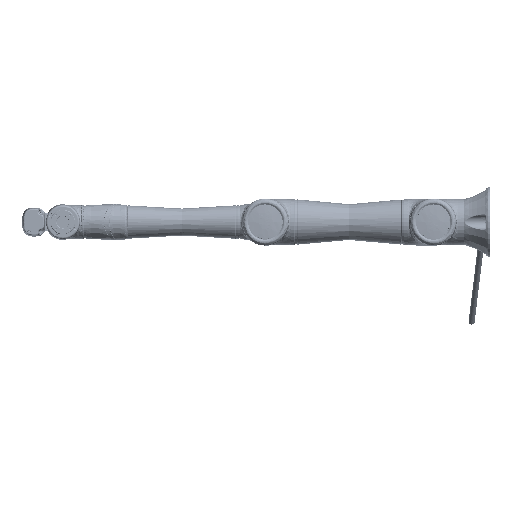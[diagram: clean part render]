
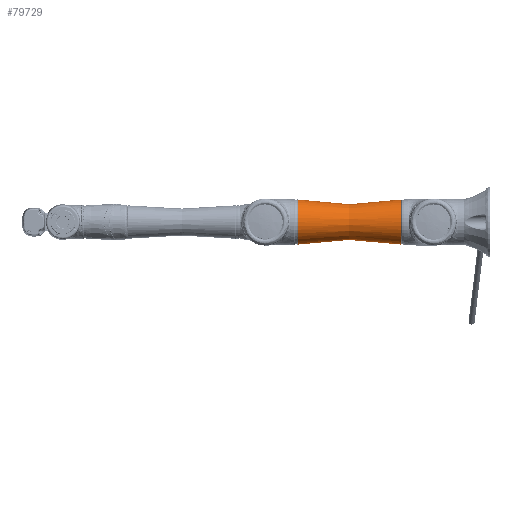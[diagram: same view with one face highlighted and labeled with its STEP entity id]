
A CAD part, left-side view. The second image highlights one B-rep face of the part: STEP entity #79729.
In plain terms, the highlighted face is a revolution surface.
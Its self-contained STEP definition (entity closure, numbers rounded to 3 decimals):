
#72521=CARTESIAN_POINT('',(0.,-132.456,0.));
#72522=DIRECTION('',(0.,1.,0.));
#72523=DIRECTION('',(-1.,0.,0.));
#72524=AXIS2_PLACEMENT_3D('',#72521,#72522,#72523);
#72526=CARTESIAN_POINT('',(0.,132.456,0.));
#72527=DIRECTION('',(0.,1.,0.));
#72528=DIRECTION('',(-1.,0.,0.));
#72529=AXIS2_PLACEMENT_3D('',#72526,#72527,#72528);
#72531=CARTESIAN_POINT('',(57.709,132.456,
0.));
#72532=CARTESIAN_POINT('',(57.279,127.536,
0.));
#72533=CARTESIAN_POINT('',(55.469,111.344,
0.));
#72534=CARTESIAN_POINT('',(51.162,80.727,
0.));
#72535=CARTESIAN_POINT('',(46.837,40.891,
0.));
#72536=CARTESIAN_POINT('',(45.196,0.,
0.));
#72537=CARTESIAN_POINT('',(46.837,-40.891,
0.));
#72538=CARTESIAN_POINT('',(51.162,-80.727,
0.));
#72539=CARTESIAN_POINT('',(55.469,-111.344,
0.));
#72540=CARTESIAN_POINT('',(57.279,-127.536,
0.));
#72541=CARTESIAN_POINT('',(57.709,-132.456,
0.));
#72543=CARTESIAN_POINT('',(-57.709,-132.456,
0.));
#72544=CARTESIAN_POINT('',(-57.279,-127.536,
0.));
#72545=CARTESIAN_POINT('',(-55.469,-111.344,
0.));
#72546=CARTESIAN_POINT('',(-51.162,-80.727,
0.));
#72547=CARTESIAN_POINT('',(-46.837,-40.891,
0.));
#72548=CARTESIAN_POINT('',(-45.196,0.,
0.));
#72549=CARTESIAN_POINT('',(-46.837,40.891,
0.));
#72550=CARTESIAN_POINT('',(-51.162,80.727,
0.));
#72551=CARTESIAN_POINT('',(-55.469,111.344,
0.));
#72552=CARTESIAN_POINT('',(-57.279,127.536,
0.));
#72553=CARTESIAN_POINT('',(-57.709,132.456,
0.));
#73612=CARTESIAN_POINT('',(-57.709,132.456,
0.));
#73613=CARTESIAN_POINT('',(57.709,132.456,
0.));
#73614=VERTEX_POINT('',#73612);
#73615=VERTEX_POINT('',#73613);
#73616=VERTEX_POINT('',#72543);
#73617=CARTESIAN_POINT('',(57.709,-132.456,
0.));
#73618=VERTEX_POINT('',#73617);
#79702=CARTESIAN_POINT('',(-57.928,135.109,0.));
#79703=CARTESIAN_POINT('',(-57.86,134.235,0.));
#79704=CARTESIAN_POINT('',(-57.385,128.485,0.));
#79705=CARTESIAN_POINT('',(-55.469,111.344,0.));
#79706=CARTESIAN_POINT('',(-51.162,80.727,0.));
#79707=CARTESIAN_POINT('',(-46.837,40.891,0.));
#79708=CARTESIAN_POINT('',(-45.196,0.,0.));
#79709=CARTESIAN_POINT('',(-46.837,-40.891,0.));
#79710=CARTESIAN_POINT('',(-51.162,-80.727,0.));
#79711=CARTESIAN_POINT('',(-55.469,-111.344,0.));
#79712=CARTESIAN_POINT('',(-57.383,-128.464,0.));
#79713=CARTESIAN_POINT('',(-57.857,-134.195,0.));
#79714=CARTESIAN_POINT('',(-57.923,-135.05,0.));
#79716=CARTESIAN_POINT('',(0.,150.462,0.));
#79717=DIRECTION('',(0.,-1.,0.));
#79718=AXIS1_PLACEMENT('',#79716,#79717);
#79719=SURFACE_OF_REVOLUTION('',#79715,#79718);
#79721=ORIENTED_EDGE('',*,*,#79720,.T.);
#79723=ORIENTED_EDGE('',*,*,#79722,.T.);
#79724=ORIENTED_EDGE('',*,*,#79692,.F.);
#79726=ORIENTED_EDGE('',*,*,#79725,.T.);
#79727=EDGE_LOOP('',(#79721,#79723,#79724,#79726));
#79728=FACE_OUTER_BOUND('',#79727,.F.);
#72525=CIRCLE('',#72524,57.709);
#72530=CIRCLE('',#72529,57.709);
#72542=B_SPLINE_CURVE_WITH_KNOTS('',3,(#72531,#72532,#72533,#72534,#72535,
#72536,#72537,#72538,#72539,#72540,#72541),.UNSPECIFIED.,.F.,.F.,(4,1,1,1,1,1,1,
1,4),(0.,0.068,0.212,0.356,
0.5,0.644,0.788,0.932,1.),
.UNSPECIFIED.);
#72554=B_SPLINE_CURVE_WITH_KNOTS('',3,(#72543,#72544,#72545,#72546,#72547,
#72548,#72549,#72550,#72551,#72552,#72553),.UNSPECIFIED.,.F.,.F.,(4,1,1,1,1,1,1,
1,4),(0.,0.068,0.212,0.356,
0.5,0.644,0.788,0.932,1.),
.UNSPECIFIED.);
#79692=EDGE_CURVE('',#73616,#73618,#72525,.T.);
#79715=B_SPLINE_CURVE_WITH_KNOTS('',3,(#79702,#79703,#79704,#79705,#79706,
#79707,#79708,#79709,#79710,#79711,#79712,#79713,#79714),.UNSPECIFIED.,.F.,.F.,(
4,1,1,1,1,1,1,1,1,1,4),(0.,0.012,0.079,
0.219,0.36,0.5,0.641,
0.781,0.921,0.988,1.),.UNSPECIFIED.);
#79720=EDGE_CURVE('',#73614,#73615,#72530,.T.);
#79722=EDGE_CURVE('',#73615,#73618,#72542,.T.);
#79725=EDGE_CURVE('',#73616,#73614,#72554,.T.);
#79729=ADVANCED_FACE('',(#79728),#79719,.T.);
